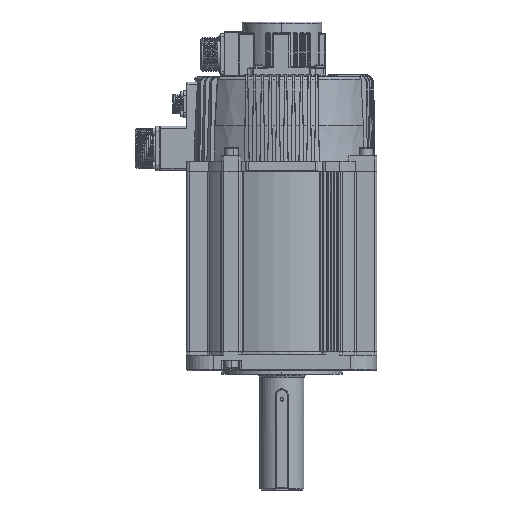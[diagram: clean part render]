
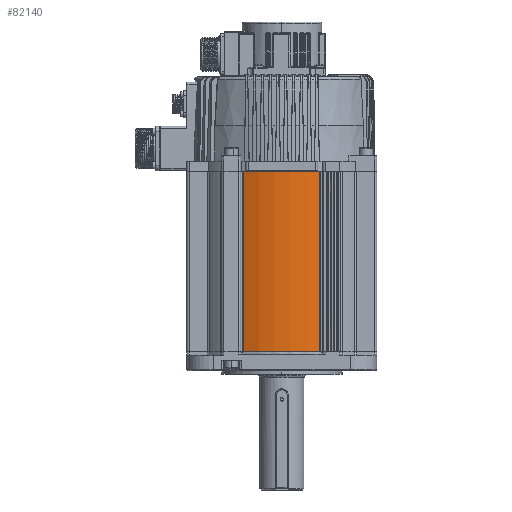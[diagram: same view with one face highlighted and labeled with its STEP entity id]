
A CAD part, left-side view. The second image highlights one B-rep face of the part: STEP entity #82140.
In plain terms, the highlighted cylindrical face has radius 90 mm (diameter 180 mm), a partial arc.
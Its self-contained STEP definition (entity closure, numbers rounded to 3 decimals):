
#2291 = VERTEX_POINT ( 'NONE', #60701 ) ;
#3508 = LINE ( 'NONE', #10419, #102355 ) ;
#4521 = ORIENTED_EDGE ( 'NONE', *, *, #53579, .T. ) ;
#10419 = CARTESIAN_POINT ( 'NONE',  ( -82.401, -36.196, 0. ) ) ;
#10462 = CARTESIAN_POINT ( 'NONE',  ( 0., 0., 171. ) ) ;
#11994 = ORIENTED_EDGE ( 'NONE', *, *, #33771, .T. ) ;
#13371 = CARTESIAN_POINT ( 'NONE',  ( -82.401, -36.196, 0. ) ) ;
#13438 = AXIS2_PLACEMENT_3D ( 'NONE', #15643, #93844, #35985 ) ;
#15579 = CIRCLE ( 'NONE', #33002, 90. ) ;
#15643 = CARTESIAN_POINT ( 'NONE',  ( 0., 0., 0. ) ) ;
#17843 = DIRECTION ( 'NONE',  ( 0., 0., 1. ) ) ;
#18374 = VERTEX_POINT ( 'NONE', #101871 ) ;
#21199 = CARTESIAN_POINT ( 'NONE',  ( -82.401, 36.196, 0. ) ) ;
#22082 = CARTESIAN_POINT ( 'NONE',  ( -82.401, -36.196, 171. ) ) ;
#22948 = EDGE_CURVE ( 'NONE', #2291, #46428, #39005, .T. ) ;
#33002 = AXIS2_PLACEMENT_3D ( 'NONE', #10462, #91925, #75379 ) ;
#33771 = EDGE_CURVE ( 'NONE', #18374, #2291, #84751, .T. ) ;
#35985 = DIRECTION ( 'NONE',  ( 1., 0., 0. ) ) ;
#39005 = CIRCLE ( 'NONE', #62654, 90. ) ;
#41497 = CYLINDRICAL_SURFACE ( 'NONE', #13438, 90. ) ;
#44054 = EDGE_LOOP ( 'NONE', ( #59308, #4521, #108622, #11994 ) ) ;
#46428 = VERTEX_POINT ( 'NONE', #13371 ) ;
#50687 = FACE_OUTER_BOUND ( 'NONE', #44054, .T. ) ;
#52887 = DIRECTION ( 'NONE',  ( 0., 0., 1. ) ) ;
#53579 = EDGE_CURVE ( 'NONE', #46428, #92377, #3508, .T. ) ;
#59308 = ORIENTED_EDGE ( 'NONE', *, *, #22948, .T. ) ;
#60701 = CARTESIAN_POINT ( 'NONE',  ( -82.401, 36.196, 0. ) ) ;
#62654 = AXIS2_PLACEMENT_3D ( 'NONE', #84621, #17843, #101885 ) ;
#62925 = DIRECTION ( 'NONE',  ( 0., 0., -1. ) ) ;
#63729 = VECTOR ( 'NONE', #62925, 1000. ) ;
#75379 = DIRECTION ( 'NONE',  ( 0., 1., 0. ) ) ;
#82140 = ADVANCED_FACE ( 'NONE', ( #50687 ), #41497, .T. ) ;
#84621 = CARTESIAN_POINT ( 'NONE',  ( 0., 0., 0. ) ) ;
#84751 = LINE ( 'NONE', #21199, #63729 ) ;
#91925 = DIRECTION ( 'NONE',  ( 0., 0., 1. ) ) ;
#92377 = VERTEX_POINT ( 'NONE', #22082 ) ;
#93844 = DIRECTION ( 'NONE',  ( 0., 0., 1. ) ) ;
#99157 = EDGE_CURVE ( 'NONE', #18374, #92377, #15579, .T. ) ;
#101871 = CARTESIAN_POINT ( 'NONE',  ( -82.401, 36.196, 171. ) ) ;
#101885 = DIRECTION ( 'NONE',  ( 0., 1., 0. ) ) ;
#102355 = VECTOR ( 'NONE', #52887, 1000. ) ;
#108622 = ORIENTED_EDGE ( 'NONE', *, *, #99157, .F. ) ;
